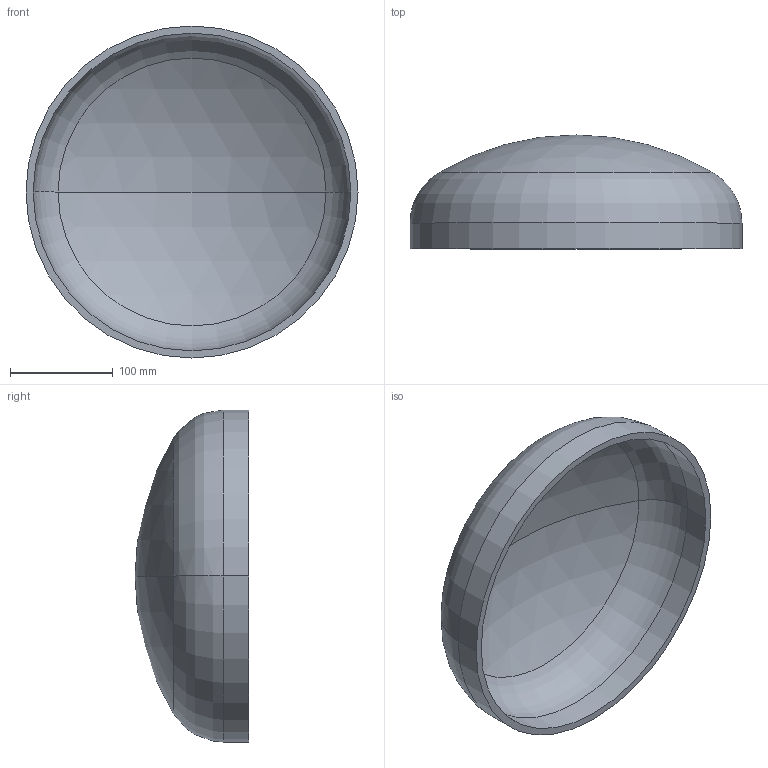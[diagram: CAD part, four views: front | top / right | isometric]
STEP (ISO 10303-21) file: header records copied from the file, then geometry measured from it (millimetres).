
FILE_DESCRIPTION (( 'STEP AP203' ), '1' );
FILE_NAME ('DIN 28013 Korbbogenform_-_Boden DIN 28013 - 323,9 x 25 - I - s=7.step', '2016-07-01T07:44:10', ( '' ), ( '' ), 'SwSTEP 2.0', 'SolidWorks 2013', '' );
FILE_SCHEMA (( 'CONFIG_CONTROL_DESIGN' ));
Length unit declared in the file: millimetre
Products named in the file (1): DIN 28013 Korbbogenform_-_Boden DIN 28013 - 323,9 x 25 - I - s=7
Bounding box: 323.9 x 111.07 x 323.9 mm (x, y, z)
Volume: 952352 mm3; surface area: 279172.1 mm2
Topology: 1 solids, 1 shells, 13 faces, 24 edges, 14 vertices
Faces by surface type: torus 4, cylinder 4, sphere 4, plane 1
Entity records: 407 total; most frequent: DIRECTION 72, CARTESIAN_POINT 52, ORIENTED_EDGE 48, AXIS2_PLACEMENT_3D 34, EDGE_CURVE 24, CIRCLE 20, EDGE_LOOP 14, VERTEX_POINT 14
